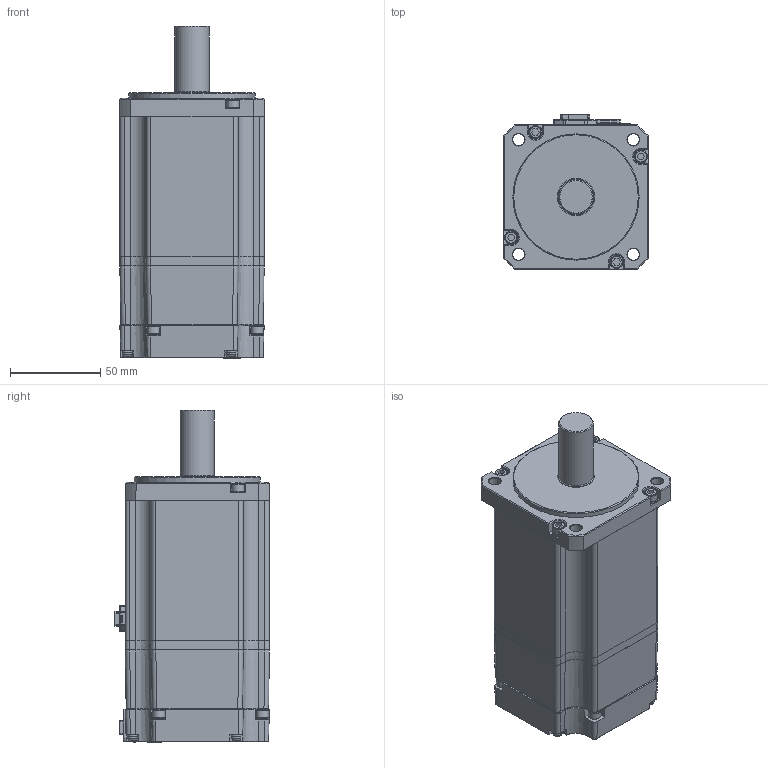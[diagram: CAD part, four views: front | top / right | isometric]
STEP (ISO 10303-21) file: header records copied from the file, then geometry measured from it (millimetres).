
FILE_DESCRIPTION (( 'STEP AP214' ), '1' );
FILE_NAME ('EM08GA004G04_Out Line(APM-EC10AM3N2).STEP', '2022-11-10T03:21:00', ( '' ), ( '' ), 'SwSTEP 2.0', 'SolidWorks 2021', '' );
FILE_SCHEMA (( 'AUTOMOTIVE_DESIGN' ));
Length unit declared in the file: millimetre
Products named in the file (1): EM08GA004G04_Out Line(APM-EC10AM3N2)
Bounding box: 80 x 85.9 x 184 mm (x, y, z)
Volume: 828658.2 mm3; surface area: 119362 mm2
Topology: 34 solids, 34 shells, 1569 faces, 3931 edges, 2494 vertices
Faces by surface type: plane 1114, cylinder 233, cone 148, torus 31, bspline 29, sphere 14
Full cylindrical faces by diameter (mm): 1.589 x1, 1.6 x9, 2 x2, 2.1 x2, 2.5 x8, 3 x8, 3.3 x8, 4 x12, 4.5 x8, 5.4 x8, 7 x8, 7.2 x8, 19 x1, 19.8 x1, 20.6 x1, 70 x1
Entity records: 64167 total; most frequent: CARTESIAN_POINT 10171, ORIENTED_EDGE 7432, DIRECTION 7149, EDGE_CURVE 3716, VECTOR 2749, LINE 2749, VERTEX_POINT 2443, AXIS2_PLACEMENT_3D 2200
